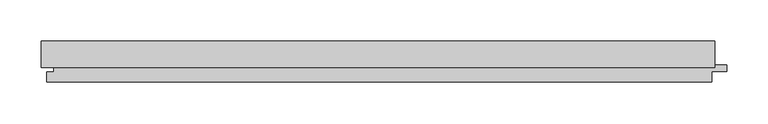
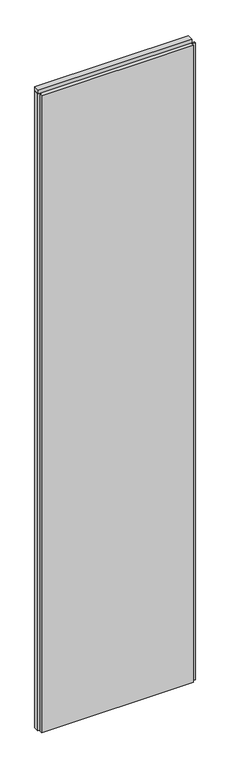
"""IFC4 building model written with IfcOpenShell, lengths in millimetres: plate geometry, Trimo_Qbiss Screen_Normal Panel-VERTICAL : HR - FB-F."""

import ifcopenshell
import ifcopenshell.guid

model = None  # the IFC model being written
_history = None  # IfcOwnerHistory: only IFC2X3 demands one
_inside = {}  # id of a spatial element -> (the spatial element, [elements in it])
_under = {}  # id of a project, library or spatial element -> (it, [spatial elements below it])
_declared = {}  # id of a project -> (the project, [libraries it declares])
_typed = {}  # id of a type object -> (the type object, [elements of that type])
_made_of = {}  # id of a material, layer set ... -> (it, [elements and type objects made of it])


def new_model(schema):
    """Start an empty IFC model of exactly this schema.

    Asked for "IFC4X3", IfcOpenShell would pick the latest addendum, in which some entities
    have other attributes; the version numbers below select the first issue.
    IFC2X3 requires an IfcOwnerHistory on every rooted entity: one is made here for all.
    """
    global model, _history
    if schema == "IFC4X3":
        model = ifcopenshell.file(schema_version=(4, 3, 0, 0))
    else:
        model = ifcopenshell.file(schema=schema)
    _inside.clear()
    _under.clear()
    _declared.clear()
    _typed.clear()
    _made_of.clear()
    _history = None
    if model.schema == "IFC2X3":
        org = make("IfcOrganization", Name="unknown")
        user = make(
            "IfcPersonAndOrganization",
            ThePerson=make("IfcPerson", FamilyName="unknown"),
            TheOrganization=org,
        )
        app = make(
            "IfcApplication",
            ApplicationDeveloper=org,
            Version="unknown",
            ApplicationFullName="unknown",
            ApplicationIdentifier="unknown",
        )
        _history = make(
            "IfcOwnerHistory",
            OwningUser=user,
            OwningApplication=app,
            ChangeAction="ADDED",
            CreationDate=0,
        )
    return model


def make(cls, **values):
    """One entity of the class cls with the attributes given. An attribute that is None is left unset."""
    return model.create_entity(
        cls, **{name: value for name, value in values.items() if value is not None}
    )


def rooted(cls, **values):
    """An entity with a GlobalId (a new one), such as an element, a storey or a relation."""
    return make(cls, GlobalId=ifcopenshell.guid.new(), OwnerHistory=_history, **values)


def si_unit(unit_type, name, prefix=None):
    """IfcSIUnit, for example si_unit("LENGTHUNIT", "METRE", prefix="MILLI")."""
    return make("IfcSIUnit", UnitType=unit_type, Prefix=prefix, Name=name)


def assignment(units):
    """IfcUnitAssignment: the units of a project."""
    return None if units is None else make("IfcUnitAssignment", Units=units)


def point(xyz):
    """IfcCartesianPoint."""
    return None if xyz is None else make("IfcCartesianPoint", Coordinates=xyz)


def direction(xyz):
    """IfcDirection."""
    return None if xyz is None else make("IfcDirection", DirectionRatios=xyz)


def frame(location, z_axis=None, x_axis=None):
    """IfcAxis2Placement3D, a coordinate frame: its origin and axes. An axis left out is left unset."""
    return make(
        "IfcAxis2Placement3D",
        Location=point(location),
        Axis=direction(z_axis),
        RefDirection=direction(x_axis),
    )


def origin():
    """The frame at (0, 0, 0) with its axes left unset."""
    return frame((0.0, 0.0, 0.0))


def place(relative_to, where):
    """IfcLocalPlacement: puts the frame where relative to a parent placement (None: the world)."""
    return make(
        "IfcLocalPlacement", PlacementRelTo=relative_to, RelativePlacement=where
    )


def context(
    kind, dimensions, precision=None, world=None, true_north=None, identifier=None
):
    """IfcGeometricRepresentationContext, for example the 3D "Model" context."""
    return make(
        "IfcGeometricRepresentationContext",
        ContextIdentifier=identifier,
        ContextType=kind,
        CoordinateSpaceDimension=dimensions,
        Precision=precision,
        WorldCoordinateSystem=world,
        TrueNorth=true_north,
    )


def project(units=None, contexts=None):
    """IfcProject with its units and contexts."""
    return rooted(
        "IfcProject",
        Name="project",
        RepresentationContexts=contexts,
        UnitsInContext=assignment(units),
    )


def spatial(cls, under=None, at=None, **own):
    """A site, building, storey or space (cls), placed at a placement, below another one or the project."""
    s = rooted(cls, ObjectPlacement=at, **own)
    if under is not None:
        _under.setdefault(under.id(), (under, []))[1].append(s)
    return s


def polyline(points):
    """IfcPolyline through the points."""
    return make("IfcPolyline", Points=[point(p) for p in points])


def outline(outer, holes=None, kind="AREA"):
    """IfcArbitraryClosedProfileDef: a profile drawn as a closed curve; with holes, ...WithVoids."""
    if holes is None:
        return make("IfcArbitraryClosedProfileDef", ProfileType=kind, OuterCurve=outer)
    return make(
        "IfcArbitraryProfileDefWithVoids",
        ProfileType=kind,
        OuterCurve=outer,
        InnerCurves=holes,
    )


def extrude(swept, where, along, depth):
    """IfcExtrudedAreaSolid: the profile swept, set in the frame where, extruded along a direction by depth."""
    return make(
        "IfcExtrudedAreaSolid",
        SweptArea=swept,
        Position=where,
        ExtrudedDirection=direction(along),
        Depth=depth,
    )


def shape(context_of_items, identifier, shape_type, items):
    """IfcShapeRepresentation: the items that make up one representation, for example the "Body"."""
    return make(
        "IfcShapeRepresentation",
        ContextOfItems=context_of_items,
        RepresentationIdentifier=identifier,
        RepresentationType=shape_type,
        Items=items,
    )


def source(mapping_origin, context_of_items, identifier, shape_type, items):
    """IfcRepresentationMap: a shape defined once, which mapped items show again and again."""
    return make(
        "IfcRepresentationMap",
        MappingOrigin=mapping_origin,
        MappedRepresentation=shape(context_of_items, identifier, shape_type, items),
    )


def transform(
    local_origin,
    x_axis=None,
    y_axis=None,
    z_axis=None,
    scale=None,
    scale2=None,
    scale3=None,
    uniform=True,
):
    """IfcCartesianTransformationOperator3D, or its non-uniform kind. x_axis, y_axis, z_axis: its Axis1, 2, 3."""
    if uniform:
        return make(
            "IfcCartesianTransformationOperator3D",
            Axis1=direction(x_axis),
            Axis2=direction(y_axis),
            LocalOrigin=point(local_origin),
            Scale=scale,
            Axis3=direction(z_axis),
        )
    return make(
        "IfcCartesianTransformationOperator3DnonUniform",
        Axis1=direction(x_axis),
        Axis2=direction(y_axis),
        LocalOrigin=point(local_origin),
        Scale=scale,
        Axis3=direction(z_axis),
        Scale2=scale2,
        Scale3=scale3,
    )


def mapped(mapping_source, mapping_target):
    """IfcMappedItem: shows the shape of a source again, moved by a transform."""
    return make(
        "IfcMappedItem", MappingSource=mapping_source, MappingTarget=mapping_target
    )


def made_of(thing, what):
    """Note that an element or type object is made of a material, layer set ...; save() writes the relation."""
    if what is not None:
        _made_of.setdefault(what.id(), (what, []))[1].append(thing)
    return thing


def element(
    cls,
    number,
    at=None,
    inside=None,
    cuts=None,
    type_object=None,
    material=None,
    context=None,
    identifier="Body",
    shape_type=None,
    held_by="IfcProductDefinitionShape",
    body=None,
    shapes=None,
    **own,
):
    """One element of the class cls, such as IfcWall. Its Tag is "e" and its number.

    at: its placement. inside: the storey or other place that contains it. cuts: it is an
    opening in that element (IfcRelVoidsElement). A single representation is given by context,
    identifier, shape_type and body (its items); several are given by shapes. held_by: the class
    of the entity that holds the representations. save() writes the other relations.
    """
    e = rooted(cls, Tag="e%d" % number, ObjectPlacement=at, **own)
    if body is not None:
        shapes = [shape(context, identifier, shape_type, body)]
    if shapes is not None:
        e.Representation = make(held_by, Representations=shapes)
    if inside is not None:
        _inside.setdefault(inside.id(), (inside, []))[1].append(e)
    if cuts is not None:
        rooted(
            "IfcRelVoidsElement", RelatingBuildingElement=cuts, RelatedOpeningElement=e
        )
    if type_object is not None:
        _typed.setdefault(type_object.id(), (type_object, []))[1].append(e)
    return made_of(e, material)


def aggregate(whole, parts):
    """IfcRelAggregates: a whole, such as a stair, and the parts it consists of."""
    return rooted("IfcRelAggregates", RelatingObject=whole, RelatedObjects=parts)


def save(model, path):
    """Write the relations noted so far, then the file.

    IfcRelAggregates (storeys below a building ...), IfcRelContainedInSpatialStructure (elements
    in a storey), IfcRelDefinesByType, IfcRelAssociatesMaterial and IfcRelDeclares: one each for
    every whole, place, type object, material and project.
    """
    for whole, parts in _under.values():
        aggregate(whole, parts)
    for where, things in _inside.values():
        rooted(
            "IfcRelContainedInSpatialStructure",
            RelatedElements=things,
            RelatingStructure=where,
        )
    for kind, things in _typed.values():
        rooted("IfcRelDefinesByType", RelatedObjects=things, RelatingType=kind)
    for what, things in _made_of.values():
        rooted("IfcRelAssociatesMaterial", RelatedObjects=things, RelatingMaterial=what)
    for by, libraries in _declared.values():
        rooted("IfcRelDeclares", RelatingContext=by, RelatedDefinitions=libraries)
    model.write(path)


def plate_92ab78d5(model_context):
    return source(origin(), model_context, "Body", "SweptSolid", [
        extrude(outline(polyline([(-351.0, 93.9), (-351.0, 126.0), (467.0, 126.0), (467.0, 93.9), (-351.0, 93.9)])), frame((0.0, 0.0, 3590.5), z_axis=(0.0, 0.0, 1.0), x_axis=(1.0, 0.0, 0.0)), (0.0, 0.0, 1.0), 19.0),
        extrude(outline(polyline([(463.0, 97.0), (481.5, 97.0), (481.5, 89.0), (463.0, 89.0), (463.0, 76.0), (-344.0, 76.0), (-344.0, 88.0), (-335.5, 88.0), (-335.5, 98.0), (-351.0, 98.0), (-351.0, 126.0), (463.0, 126.0), (463.0, 97.0)])), frame((0.0, 0.0, 12.5), z_axis=(0.0, 0.0, 1.0), x_axis=(1.0, 0.0, 0.0)), (0.0, 0.0, 1.0), 3575.0),
    ])


if __name__ == "__main__":
    model = new_model("IFC4")
    model_context = context("Model", 3, world=origin())
    ifc_project = project(units=[si_unit("LENGTHUNIT", "METRE", prefix="MILLI")], contexts=[model_context])
    site = spatial("IfcSite", under=ifc_project)
    building = spatial("IfcBuilding", under=site)
    placement = place(None, origin())
    plate_shape = plate_92ab78d5(model_context)
    element("IfcPlate", 1, ObjectType="Trimo_Qbiss Screen_Normal Panel-VERTICAL : HR - FB-F", at=placement, inside=building, context=model_context, shape_type="MappedRepresentation", body=[
        mapped(plate_shape, transform((0.0, 0.0, 0.0), x_axis=(1.0, 0.0, 0.0), y_axis=(0.0, 1.0, 0.0), z_axis=(0.0, 0.0, 1.0))),
    ])
    save(model, "model.ifc")
